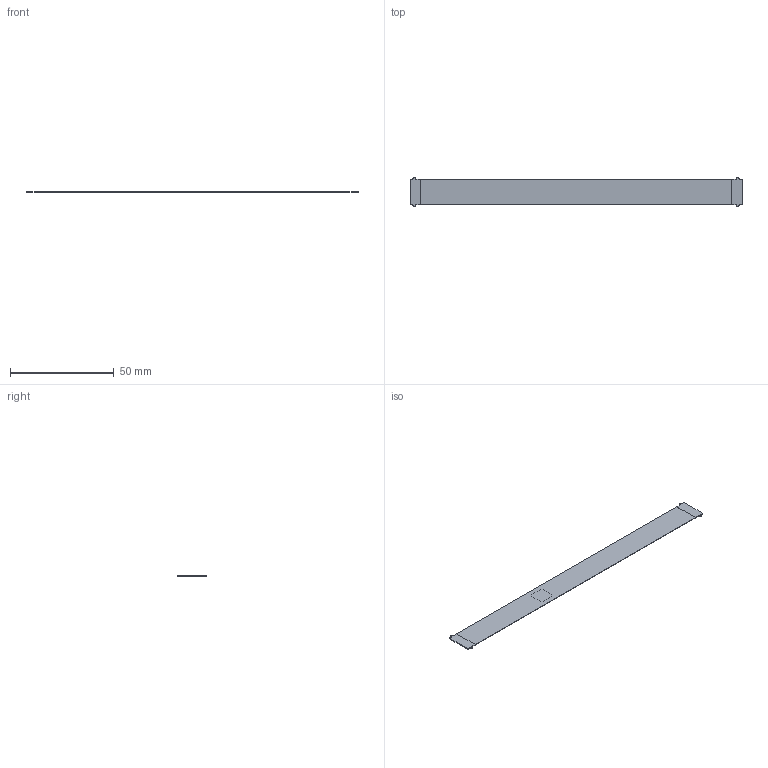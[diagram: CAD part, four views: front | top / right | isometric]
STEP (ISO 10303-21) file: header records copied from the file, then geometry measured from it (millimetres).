
FILE_DESCRIPTION(('Open CASCADE Model'),'2;1');
FILE_NAME('Open CASCADE Shape Model','2022-03-09T11:35:28',('Author'),( 'Open CASCADE'),'Open CASCADE STEP processor 6.8','Open CASCADE 6.8' ,'Unknown');
FILE_SCHEMA(('AUTOMOTIVE_DESIGN { 1 0 10303 214 1 1 1 1 }'));
Length unit declared in the file: millimetre
Products named in the file (11): PCB; Board; Open CASCADE STEP translator 6.8 4.1.1; Open CASCADE STEP translator 6.8 4.1.2; Open CASCADE STEP translator 6.8 4.1.3; Open CASCADE STEP translator 6.8 4.1.4; Open CASCADE STEP translator 6.8 4.1.5; Open CASCADE STEP translator 6.8 4.1.6; LA1; 6411200288; Extruded
Assembly tree (10 placements, depth 4):
  PCB
    Board
      Open CASCADE STEP translator 6.8 4.1.1
      Open CASCADE STEP translator 6.8 4.1.2
      Open CASCADE STEP translator 6.8 4.1.3
      Open CASCADE STEP translator 6.8 4.1.4
      Open CASCADE STEP translator 6.8 4.1.5
      Open CASCADE STEP translator 6.8 4.1.6
    LA1
      6411200288
        Extruded
Bounding box: 160 x 14 x 0.41 mm (x, y, z)
Volume: 471.9 mm3; surface area: 4239 mm2
Topology: 7 solids, 7 shells, 158 faces, 432 edges, 288 vertices
Faces by surface type: plane 158
Entity records: 5146 total; most frequent: CARTESIAN_POINT 889, ORIENTED_EDGE 864, DIRECTION 770, EDGE_CURVE 432, LINE 432, VECTOR 432, VERTEX_POINT 288, AXIS2_PLACEMENT_3D 169
